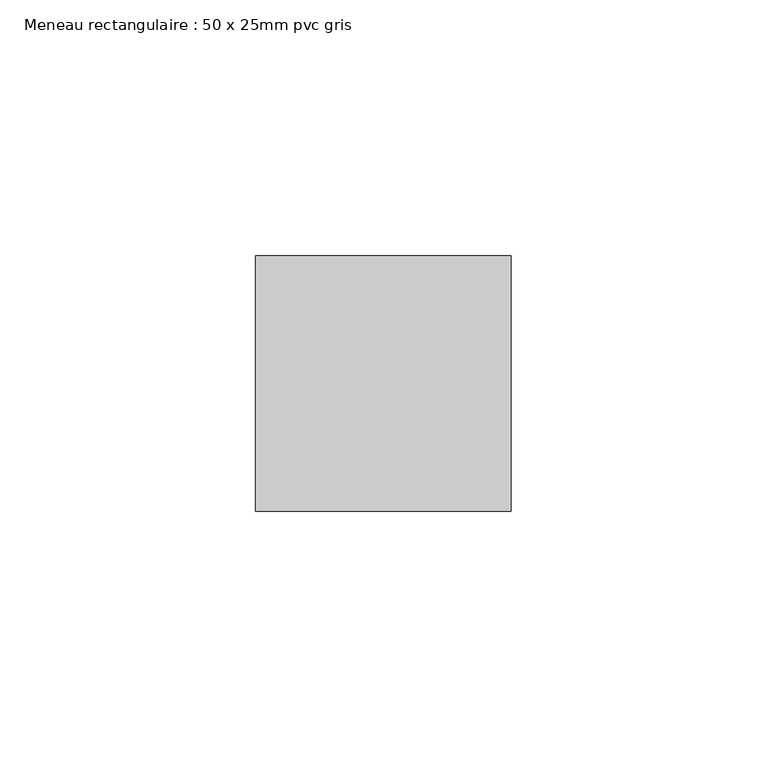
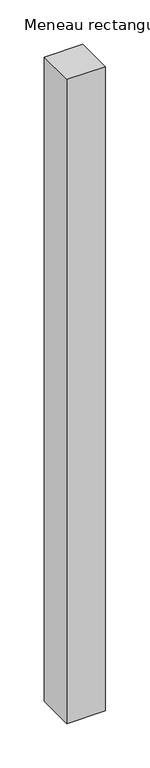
"""IFC4 building model written with IfcOpenShell, lengths in millimetres: member geometry, Meneau rectangulaire : 50 x 25mm pvc gris."""

from ifc_helpers import new_model, si_unit, frame, origin, place, context, project, spatial, polyline, outline, extrude, source, transform, mapped, element, save


def meneau_rectangulaire_50_x_25mm_pvc_gris_3d82b484(model_context):
    return source(origin(), model_context, "Body", "SweptSolid", [
        extrude(outline(polyline([(0.0, 0.0), (0.0, -50.0), (-50.0, -50.0), (-50.0, 0.0), (0.0, 0.0)])), frame((0.0, 0.0, -885.0), z_axis=(0.0, 0.0, 1.0), x_axis=(1.0, 0.0, 0.0)), (0.0, 0.0, 1.0), 885.0),
    ])


if __name__ == "__main__":
    model = new_model("IFC4")
    model_context = context("Model", 3, world=origin())
    ifc_project = project(units=[si_unit("LENGTHUNIT", "METRE", prefix="MILLI")], contexts=[model_context])
    site = spatial("IfcSite", under=ifc_project)
    building = spatial("IfcBuilding", under=site)
    placement = place(None, origin())
    meneau_rectangulaire_50_x_25mm_pvc_gris_shape = meneau_rectangulaire_50_x_25mm_pvc_gris_3d82b484(model_context)
    element("IfcMember", 1, ObjectType="Meneau rectangulaire : 50 x 25mm pvc gris", at=placement, inside=building, context=model_context, shape_type="MappedRepresentation", body=[
        mapped(meneau_rectangulaire_50_x_25mm_pvc_gris_shape, transform((0.0, 0.0, 0.0), x_axis=(1.0, 0.0, 0.0), y_axis=(0.0, 1.0, 0.0), z_axis=(0.0, 0.0, 1.0))),
    ])
    save(model, "model.ifc")
